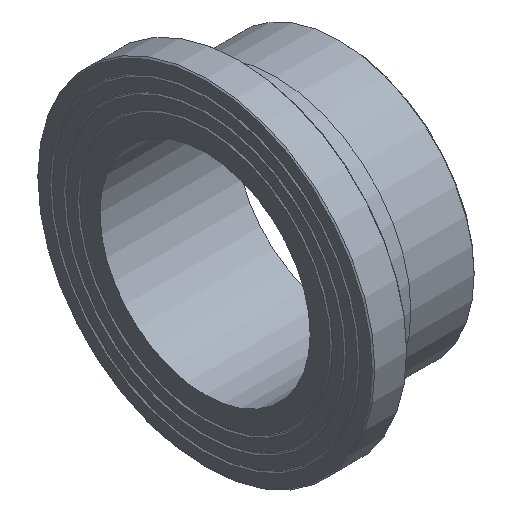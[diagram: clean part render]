
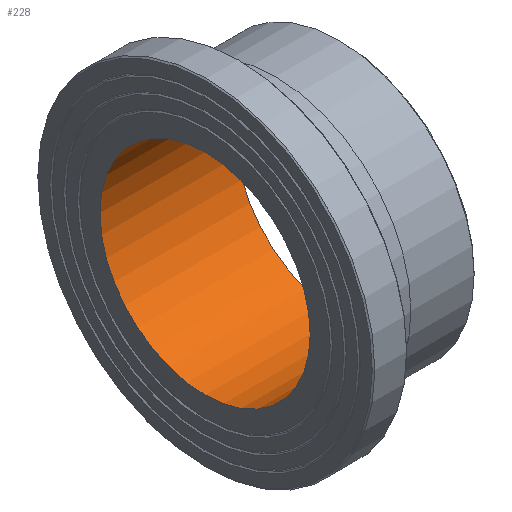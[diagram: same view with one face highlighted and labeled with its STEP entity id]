
A CAD part, isometric view. The second image highlights one B-rep face of the part: STEP entity #228.
In plain terms, the highlighted cylindrical face has radius 122.3 mm (diameter 244.6 mm), a full revolution.
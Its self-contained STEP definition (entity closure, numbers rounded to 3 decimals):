
#33=CYLINDRICAL_SURFACE('',#274,122.3);
#50=ORIENTED_EDGE('',*,*,#79,.F.);
#51=ORIENTED_EDGE('',*,*,#76,.T.);
#76=EDGE_CURVE('',#96,#96,#116,.T.);
#79=EDGE_CURVE('',#99,#99,#119,.T.);
#96=VERTEX_POINT('',#383);
#99=VERTEX_POINT('',#390);
#116=CIRCLE('',#257,122.3);
#119=CIRCLE('',#261,122.3);
#150=EDGE_LOOP('',(#50));
#151=EDGE_LOOP('',(#51));
#190=FACE_BOUND('',#150,.T.);
#191=FACE_BOUND('',#151,.T.);
#228=ADVANCED_FACE('',(#190,#191),#33,.F.);
#257=AXIS2_PLACEMENT_3D('',#382,#303,#304);
#261=AXIS2_PLACEMENT_3D('',#389,#311,#312);
#274=AXIS2_PLACEMENT_3D('',#410,#337,#338);
#303=DIRECTION('',(-1.,0.,0.));
#304=DIRECTION('',(0.,0.,1.));
#311=DIRECTION('',(-1.,0.,0.));
#312=DIRECTION('',(0.,0.,1.));
#337=DIRECTION('',(-1.,0.,0.));
#338=DIRECTION('',(0.,0.,1.));
#382=CARTESIAN_POINT('',(0.,0.,0.));
#383=CARTESIAN_POINT('',(0.,0.,122.3));
#389=CARTESIAN_POINT('',(158.,0.,0.));
#390=CARTESIAN_POINT('',(158.,0.,122.3));
#410=CARTESIAN_POINT('',(60.,0.,0.));
